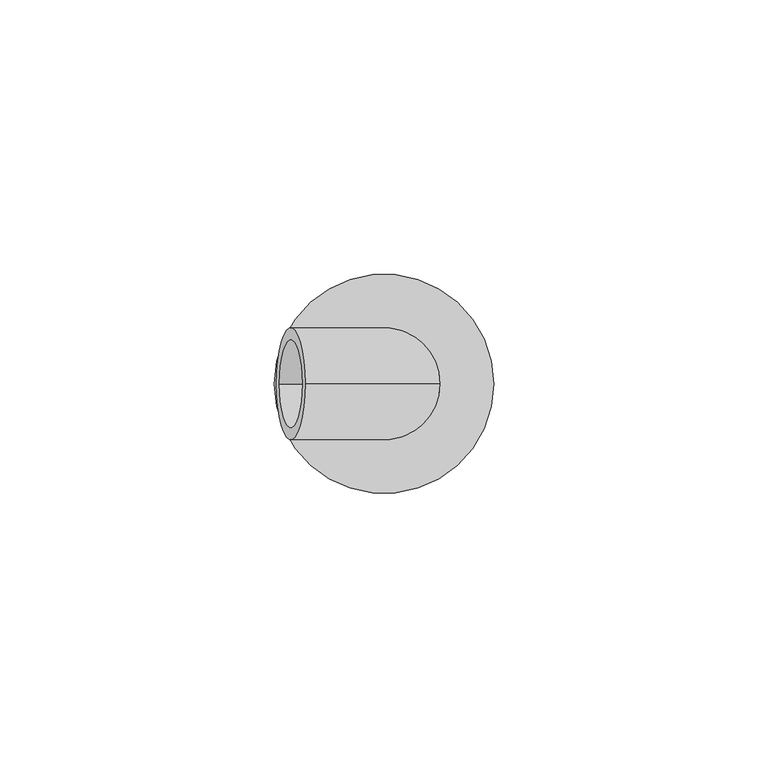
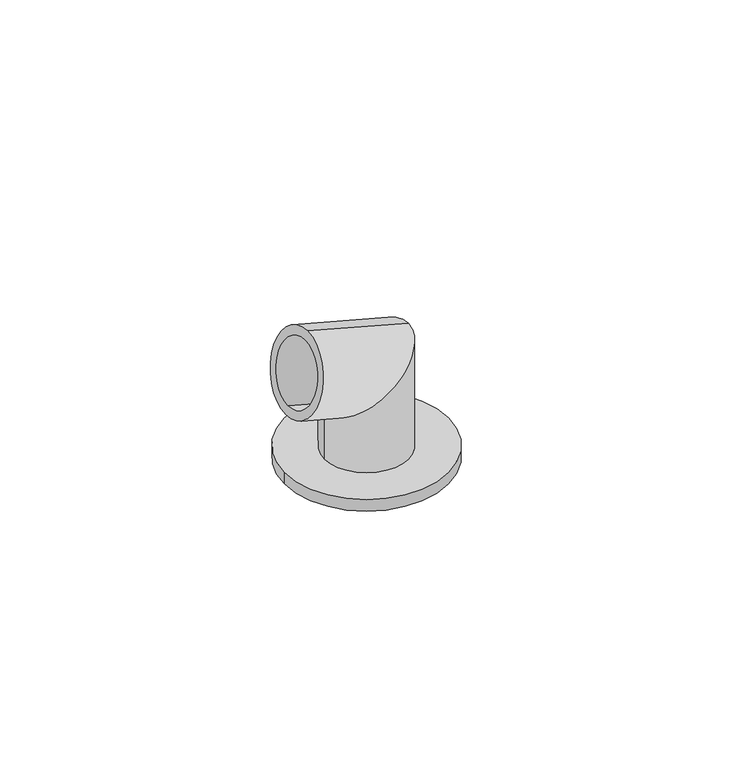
"""IFC4 building model written with IfcOpenShell, lengths in millimetres: pipe fitting geometry."""

from ifc_helpers import new_model, si_unit, frame, origin, origin_with_axes, place, context, project, spatial, polyline, circle_curve, ellipse_curve, source, transform, mapped, element, save
from ifc_brep_helpers import plane_surface, cylinder_surface, revolved_surface, advanced_brep


def pipe_fitting_a80298d2(model_context):
    return source(origin(), model_context, "Body", "AdvancedBrep", [
        advanced_brep(
        [(-20.0, 0.0, 3.0), (20.0, 0.0, 3.0), (10.2, 0.0, 3.0), (-10.2, 0.0, 3.0), (8.0, 0.0, 3.0), (-8.0, 0.0, 3.0), (-7.5, 0.0, 3.0), (7.5, 0.0, 3.0), (-20.0, 0.0, 0.0), (20.0, 0.0, 0.0), (-7.5, 0.0, 0.0), (7.5, 0.0, 0.0), (10.2, 0.0, 30.8267353), (-10.2, 0.0, 15.1732647), (-14.3600457, 0.0, 37.4075797), (-19.6399543, 0.0, 17.7026928), (-14.9294476, 0.0, 35.2825429), (-19.0705524, 0.0, 19.8277297), (8.0, 0.0, 29.1386159), (-8.0, 0.0, 16.8613841)],
        [
            (0, 1, circle_curve(frame((0.0, 0.0, 3.0), z_axis=(0.0, 0.0, 1.0), x_axis=(1.0, 0.0, 0.0)), 20.0)),
            (1, 0, circle_curve(frame((0.0, 0.0, 3.0), z_axis=(0.0, 0.0, 1.0), x_axis=(1.0, 0.0, 0.0)), 20.0)),
            (2, 3, circle_curve(frame((0.0, 0.0, 3.0), z_axis=(0.0, 0.0, -1.0), x_axis=(-1.0, 0.0, 0.0)), 10.2)),
            (3, 2, circle_curve(frame((0.0, 0.0, 3.0), z_axis=(0.0, 0.0, -1.0), x_axis=(-1.0, 0.0, 0.0)), 10.2)),
            (4, 5, circle_curve(frame((0.0, 0.0, 3.0), z_axis=(0.0, 0.0, 1.0), x_axis=(-1.0, 0.0, 0.0)), 8.0)),
            (5, 4, circle_curve(frame((0.0, 0.0, 3.0), z_axis=(0.0, 0.0, 1.0), x_axis=(-1.0, 0.0, 0.0)), 8.0)),
            (6, 7, circle_curve(frame((0.0, 0.0, 3.0), z_axis=(0.0, 0.0, -1.0), x_axis=(1.0, 0.0, 0.0)), 7.5)),
            (7, 6, circle_curve(frame((0.0, 0.0, 3.0), z_axis=(0.0, 0.0, -1.0), x_axis=(1.0, 0.0, 0.0)), 7.5)),
            (8, 9, circle_curve(frame((0.0, 0.0, 0.0), z_axis=(0.0, 0.0, -1.0), x_axis=(1.0, 0.0, 0.0)), 20.0)),
            (9, 8, circle_curve(frame((0.0, 0.0, 0.0), z_axis=(0.0, 0.0, -1.0), x_axis=(1.0, 0.0, 0.0)), 20.0)),
            (10, 11, circle_curve(origin_with_axes(), 7.5)),
            (11, 10, circle_curve(origin_with_axes(), 7.5)),
            (0, 8),
            (9, 1),
            (12, 13, ellipse_curve(frame((0.0, 0.0, 23.0), z_axis=(0.608761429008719, 0.0, -0.7933533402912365), x_axis=(-0.7933533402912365, 0.0, -0.6087614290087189)), 12.8568186, 10.2)),
            (13, 3),
            (2, 12),
            (13, 12, ellipse_curve(frame((0.0, 0.0, 23.0), z_axis=(0.608761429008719, 0.0, -0.7933533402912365), x_axis=(-0.7933533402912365, 0.0, -0.6087614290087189)), 12.8568186, 10.2)),
            (14, 15, circle_curve(frame((-17.0, 0.0, 27.5551363), z_axis=(-0.9659258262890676, 0.0, 0.25881904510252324), x_axis=(-0.25881904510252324, 0.0, -0.9659258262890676)), 10.2)),
            (15, 14, circle_curve(frame((-17.0, 0.0, 27.5551363), z_axis=(-0.9659258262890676, 0.0, 0.25881904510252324), x_axis=(-0.25881904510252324, 0.0, -0.9659258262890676)), 10.2)),
            (16, 17, circle_curve(frame((-17.0, 0.0, 27.5551363), z_axis=(0.9659258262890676, 0.0, -0.25881904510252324), x_axis=(-0.25881904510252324, 0.0, -0.9659258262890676)), 8.0)),
            (17, 16, circle_curve(frame((-17.0, 0.0, 27.5551363), z_axis=(0.9659258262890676, 0.0, -0.25881904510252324), x_axis=(-0.25881904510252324, 0.0, -0.9659258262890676)), 8.0)),
            (12, 14),
            (15, 13),
            (6, 10),
            (11, 7),
            (18, 19, ellipse_curve(frame((0.0, 0.0, 23.0), z_axis=(-0.608761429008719, 0.0, 0.7933533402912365), x_axis=(0.7933533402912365, 0.0, 0.6087614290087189)), 10.0837793, 8.0)),
            (19, 5),
            (4, 18),
            (19, 18, ellipse_curve(frame((0.0, 0.0, 23.0), z_axis=(-0.608761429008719, 0.0, 0.7933533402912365), x_axis=(0.7933533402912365, 0.0, 0.6087614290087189)), 10.0837793, 8.0)),
            (17, 19),
            (18, 16),
        ],
        [
            plane_surface(frame((20.0, 0.0, 3.0), z_axis=(0.0, 0.0, 1.0), x_axis=(0.0, 1.0, 0.0))),
            plane_surface(frame((20.0, 0.0, 0.0), z_axis=(0.0, 0.0, -1.0), x_axis=(0.0, -1.0, 0.0))),
            cylinder_surface(origin_with_axes(), 20.0),
            cylinder_surface(frame((0.0, 0.0, 0.0), z_axis=(0.0, 0.0, -1.0), x_axis=(-1.0, 0.0, 0.0)), 10.2),
            plane_surface(frame((-17.0, 0.0, 27.5551363), z_axis=(-0.9659258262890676, 0.0, 0.25881904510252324), x_axis=(0.0, -1.0, 0.0))),
            cylinder_surface(frame((0.0, 0.0, 23.0), z_axis=(0.9659258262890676, 0.0, -0.25881904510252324), x_axis=(-0.25881904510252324, 0.0, -0.9659258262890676)), 10.2),
            revolved_surface(polyline([(7.5, 0.0, 0.0), (7.5, 0.0, 3.0)]), (0.0, 0.0, 0.0), (0.0, 0.0, -1.0)),
            revolved_surface(polyline([(-8.0, 0.0, 29.1386159), (-8.0, 0.0, 3.0)]), (0.0, 0.0, 0.0), (0.0, 0.0, 1.0)),
            revolved_surface(polyline([(-19.07055240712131, 0.0, 19.827729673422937), (3.858895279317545, 0.0, 13.68380268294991)]), (0.0, 0.0, 23.0), (-0.9659258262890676, 0.0, 0.25881904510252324)),
        ],
        [
            (0, [[1, 2], [3, 4]]),
            (0, [[5, 6], [7, 8]]),
            (1, [[9, 10], [11, 12]]),
            (2, [[-1, 13, -10, 14]]),
            (2, [[-2, -14, -9, -13]]),
            (3, [[15, 16, -3, 17]]),
            (3, [[18, -17, -4, -16]]),
            (4, [[19, 20], [21, 22]]),
            (5, [[-15, 23, -20, 24]]),
            (5, [[-18, -24, -19, -23]]),
            (6, [[-7, 25, -12, 26]]),
            (6, [[-8, -26, -11, -25]]),
            (7, [[27, 28, -5, 29]]),
            (7, [[30, -29, -6, -28]]),
            (8, [[-22, 31, -27, 32]]),
            (8, [[-21, -32, -30, -31]]),
        ],
    ),
    ])


if __name__ == "__main__":
    model = new_model("IFC4")
    model_context = context("Model", 3, world=origin())
    ifc_project = project(units=[si_unit("LENGTHUNIT", "METRE", prefix="MILLI")], contexts=[model_context])
    site = spatial("IfcSite", under=ifc_project)
    building = spatial("IfcBuilding", under=site)
    placement = place(None, origin())
    pipe_fitting_shape = pipe_fitting_a80298d2(model_context)
    element("IfcPipeFitting", 1, ObjectType="БИР ПЕКС_КМП_Угольник установочный 105 : Угольник установочный 105° 1/2\" х 16 (2,2)", at=placement, inside=building, context=model_context, shape_type="MappedRepresentation", body=[
        mapped(pipe_fitting_shape, transform((0.0, 0.0, 0.0), x_axis=(1.0, 0.0, 0.0), y_axis=(0.0, 1.0, 0.0), z_axis=(0.0, 0.0, 1.0))),
    ])
    save(model, "model.ifc")
